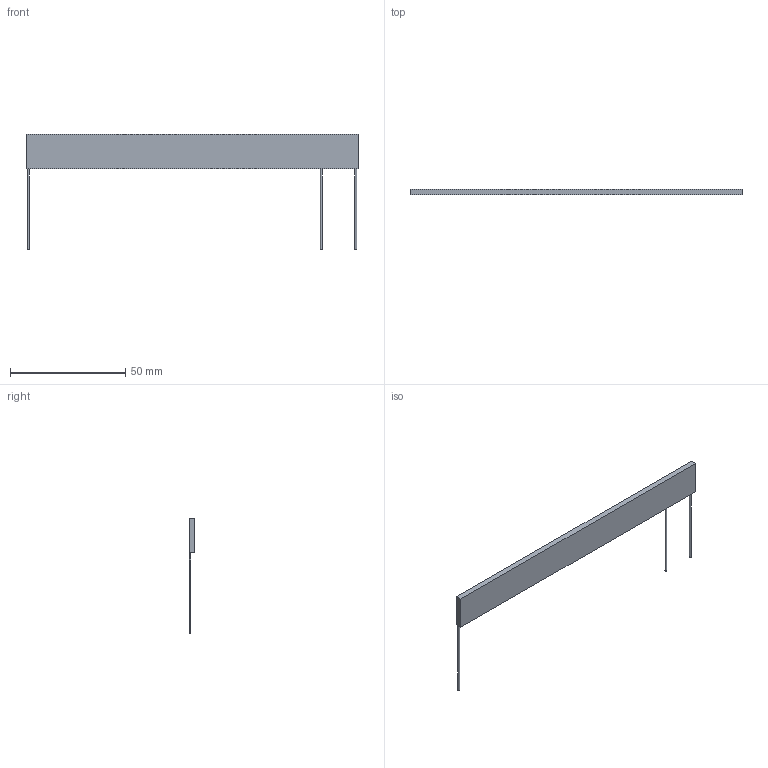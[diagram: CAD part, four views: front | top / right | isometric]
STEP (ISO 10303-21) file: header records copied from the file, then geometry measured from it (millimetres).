
FILE_DESCRIPTION(('STEP AP203'), '1');
FILE_NAME('NR1-77-2-10', '', ('UNSPECIFIED'), ('UNSPECIFIED'), 'ASCON STEP Converter 1.6', 'ASCON Math Kernel', '');
FILE_SCHEMA(('CONFIG_CONTROL_DESIGN'));
Length unit declared in the file: millimetre
Bounding box: 144 x 2.5 x 50 mm (x, y, z)
Volume: 5452.8 mm3; surface area: 5378.9 mm2
Topology: 1 solids, 1 shells, 12 faces, 27 edges, 17 vertices
Faces by surface type: plane 9, cylinder 3
Full cylindrical faces by diameter (mm): 0.8 x3
Entity records: 461 total; most frequent: DIRECTION 59, CARTESIAN_POINT 54, ORIENTED_EDGE 48, EDGE_CURVE 24, AXIS2_PLACEMENT_3D 22, VERTEX_POINT 17, EDGE_LOOP 15, LINE 15
